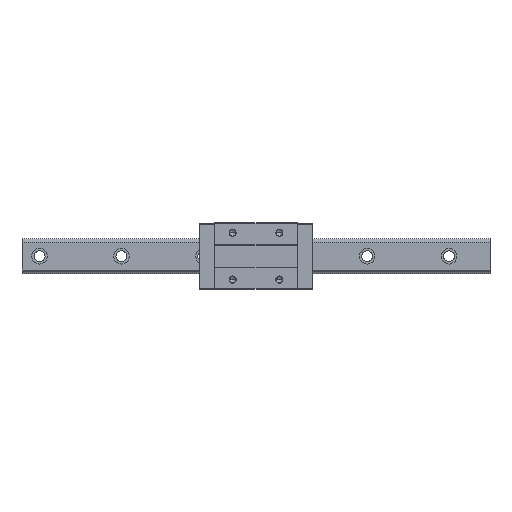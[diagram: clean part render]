
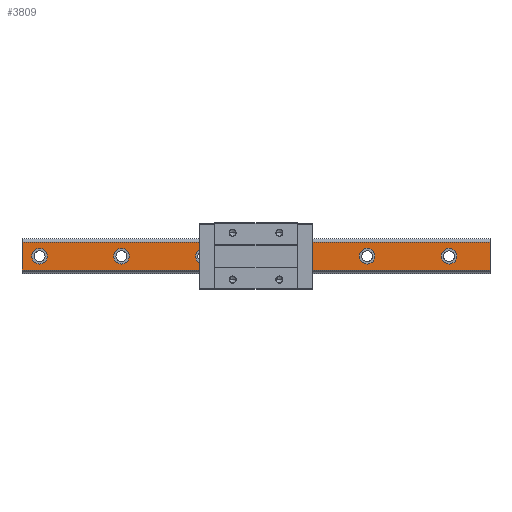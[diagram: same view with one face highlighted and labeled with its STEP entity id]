
A CAD part, top view. The second image highlights one B-rep face of the part: STEP entity #3809.
In plain terms, the highlighted planar face has unit normal (0, 0, 1).
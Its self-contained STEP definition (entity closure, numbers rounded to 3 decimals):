
#32 = VERTEX_POINT ( 'NONE', #368 ) ;
#46 = CARTESIAN_POINT ( 'NONE',  ( 300., -17.696, 32. ) ) ;
#55 = EDGE_LOOP ( 'NONE', ( #2657, #4385 ) ) ;
#112 = FACE_BOUND ( 'NONE', #2966, .T. ) ;
#157 = EDGE_CURVE ( 'NONE', #4929, #4425, #513, .T. ) ;
#167 = CARTESIAN_POINT ( 'NONE',  ( 27.5, 0., 32. ) ) ;
#201 = DIRECTION ( 'NONE',  ( 1., 0., 0. ) ) ;
#218 = CARTESIAN_POINT ( 'NONE',  ( -277.5, 0., 32. ) ) ;
#258 = CIRCLE ( 'NONE', #4062, 10. ) ;
#271 = AXIS2_PLACEMENT_3D ( 'NONE', #3136, #2676, #4907 ) ;
#340 = FACE_BOUND ( 'NONE', #1756, .T. ) ;
#341 = DIRECTION ( 'NONE',  ( 1., 0., 0. ) ) ;
#343 = CARTESIAN_POINT ( 'NONE',  ( -162.5, 0., 32. ) ) ;
#353 = ORIENTED_EDGE ( 'NONE', *, *, #5009, .F. ) ;
#368 = CARTESIAN_POINT ( 'NONE',  ( -300., 17.696, 32. ) ) ;
#393 = DIRECTION ( 'NONE',  ( 0., -1., 0. ) ) ;
#436 = CARTESIAN_POINT ( 'NONE',  ( 132.5, 0., 32. ) ) ;
#439 = VERTEX_POINT ( 'NONE', #167 ) ;
#513 = LINE ( 'NONE', #975, #572 ) ;
#572 = VECTOR ( 'NONE', #4846, 1000. ) ;
#591 = EDGE_CURVE ( 'NONE', #2335, #439, #258, .T. ) ;
#601 = AXIS2_PLACEMENT_3D ( 'NONE', #1574, #5495, #2018 ) ;
#690 = DIRECTION ( 'NONE',  ( 1., 0., 0. ) ) ;
#738 = CIRCLE ( 'NONE', #1017, 10. ) ;
#842 = ORIENTED_EDGE ( 'NONE', *, *, #2032, .F. ) ;
#910 = CARTESIAN_POINT ( 'NONE',  ( 37.5, 0., 32. ) ) ;
#921 = DIRECTION ( 'NONE',  ( 0., -1., 0. ) ) ;
#923 = CIRCLE ( 'NONE', #2274, 10. ) ;
#975 = CARTESIAN_POINT ( 'NONE',  ( 300., -17.696, 32. ) ) ;
#1005 = EDGE_LOOP ( 'NONE', ( #3021, #3750 ) ) ;
#1015 = CARTESIAN_POINT ( 'NONE',  ( -267.5, 0., 32. ) ) ;
#1017 = AXIS2_PLACEMENT_3D ( 'NONE', #1229, #2523, #5185 ) ;
#1170 = CARTESIAN_POINT ( 'NONE',  ( -287.5, 0., 32. ) ) ;
#1202 = AXIS2_PLACEMENT_3D ( 'NONE', #1831, #5278, #690 ) ;
#1229 = CARTESIAN_POINT ( 'NONE',  ( 142.5, 0., 32. ) ) ;
#1260 = PLANE ( 'NONE',  #5082 ) ;
#1320 = DIRECTION ( 'NONE',  ( 0., 0., 1. ) ) ;
#1502 = VECTOR ( 'NONE', #4123, 1000. ) ;
#1509 = CIRCLE ( 'NONE', #1787, 10. ) ;
#1533 = CARTESIAN_POINT ( 'NONE',  ( 247.5, 0., 32. ) ) ;
#1574 = CARTESIAN_POINT ( 'NONE',  ( -172.5, 0., 32. ) ) ;
#1597 = EDGE_LOOP ( 'NONE', ( #2660, #4316 ) ) ;
#1602 = CARTESIAN_POINT ( 'NONE',  ( -277.5, 0., 32. ) ) ;
#1655 = CARTESIAN_POINT ( 'NONE',  ( 247.5, 0., 32. ) ) ;
#1682 = CARTESIAN_POINT ( 'NONE',  ( 300., -17.696, 32. ) ) ;
#1756 = EDGE_LOOP ( 'NONE', ( #3543, #5107 ) ) ;
#1787 = AXIS2_PLACEMENT_3D ( 'NONE', #3327, #4192, #201 ) ;
#1789 = FACE_OUTER_BOUND ( 'NONE', #3745, .T. ) ;
#1831 = CARTESIAN_POINT ( 'NONE',  ( -67.5, 0., 32. ) ) ;
#1908 = VERTEX_POINT ( 'NONE', #343 ) ;
#1927 = EDGE_CURVE ( 'NONE', #3118, #2927, #4443, .T. ) ;
#1942 = ORIENTED_EDGE ( 'NONE', *, *, #2421, .T. ) ;
#2018 = DIRECTION ( 'NONE',  ( 1., 0., 0. ) ) ;
#2032 = EDGE_CURVE ( 'NONE', #4547, #1908, #5432, .T. ) ;
#2067 = FACE_BOUND ( 'NONE', #1005, .T. ) ;
#2072 = DIRECTION ( 'NONE',  ( 1., 0., 0. ) ) ;
#2102 = FACE_BOUND ( 'NONE', #2923, .T. ) ;
#2138 = EDGE_CURVE ( 'NONE', #4649, #5205, #738, .T. ) ;
#2274 = AXIS2_PLACEMENT_3D ( 'NONE', #4918, #4414, #3205 ) ;
#2335 = VERTEX_POINT ( 'NONE', #5045 ) ;
#2400 = CARTESIAN_POINT ( 'NONE',  ( 300., 17.696, 32. ) ) ;
#2410 = CIRCLE ( 'NONE', #601, 10. ) ;
#2421 = EDGE_CURVE ( 'NONE', #32, #4425, #3419, .T. ) ;
#2523 = DIRECTION ( 'NONE',  ( 0., 0., 1. ) ) ;
#2609 = ORIENTED_EDGE ( 'NONE', *, *, #4586, .T. ) ;
#2617 = CARTESIAN_POINT ( 'NONE',  ( -67.5, 0., 32. ) ) ;
#2657 = ORIENTED_EDGE ( 'NONE', *, *, #3151, .F. ) ;
#2660 = ORIENTED_EDGE ( 'NONE', *, *, #3666, .F. ) ;
#2676 = DIRECTION ( 'NONE',  ( 0., 0., 1. ) ) ;
#2689 = AXIS2_PLACEMENT_3D ( 'NONE', #1602, #3335, #341 ) ;
#2797 = EDGE_CURVE ( 'NONE', #4836, #5369, #4890, .T. ) ;
#2811 = DIRECTION ( 'NONE',  ( 0., 0., 1. ) ) ;
#2825 = CARTESIAN_POINT ( 'NONE',  ( -300., -17.696, 32. ) ) ;
#2910 = AXIS2_PLACEMENT_3D ( 'NONE', #218, #3657, #5371 ) ;
#2911 = AXIS2_PLACEMENT_3D ( 'NONE', #2617, #1320, #2072 ) ;
#2923 = EDGE_LOOP ( 'NONE', ( #3006, #353 ) ) ;
#2927 = VERTEX_POINT ( 'NONE', #5427 ) ;
#2966 = EDGE_LOOP ( 'NONE', ( #5422, #842 ) ) ;
#3006 = ORIENTED_EDGE ( 'NONE', *, *, #2797, .F. ) ;
#3021 = ORIENTED_EDGE ( 'NONE', *, *, #3838, .F. ) ;
#3084 = VECTOR ( 'NONE', #921, 1000. ) ;
#3111 = EDGE_CURVE ( 'NONE', #4641, #4929, #5176, .T. ) ;
#3118 = VERTEX_POINT ( 'NONE', #3518 ) ;
#3136 = CARTESIAN_POINT ( 'NONE',  ( -172.5, 0., 32. ) ) ;
#3151 = EDGE_CURVE ( 'NONE', #5205, #4649, #923, .T. ) ;
#3195 = CIRCLE ( 'NONE', #1202, 10. ) ;
#3205 = DIRECTION ( 'NONE',  ( 1., 0., 0. ) ) ;
#3327 = CARTESIAN_POINT ( 'NONE',  ( 37.5, 0., 32. ) ) ;
#3335 = DIRECTION ( 'NONE',  ( 0., 0., 1. ) ) ;
#3419 = LINE ( 'NONE', #4767, #3084 ) ;
#3518 = CARTESIAN_POINT ( 'NONE',  ( -77.5, 0., 32. ) ) ;
#3543 = ORIENTED_EDGE ( 'NONE', *, *, #591, .F. ) ;
#3555 = CARTESIAN_POINT ( 'NONE',  ( 237.5, 0., 32. ) ) ;
#3581 = DIRECTION ( 'NONE',  ( 0., 0., 1. ) ) ;
#3616 = ORIENTED_EDGE ( 'NONE', *, *, #3111, .F. ) ;
#3657 = DIRECTION ( 'NONE',  ( 0., 0., 1. ) ) ;
#3666 = EDGE_CURVE ( 'NONE', #2927, #3118, #3195, .T. ) ;
#3721 = VECTOR ( 'NONE', #393, 1000. ) ;
#3745 = EDGE_LOOP ( 'NONE', ( #1942, #4124, #3616, #2609 ) ) ;
#3750 = ORIENTED_EDGE ( 'NONE', *, *, #5377, .F. ) ;
#3760 = LINE ( 'NONE', #2400, #1502 ) ;
#3785 = VERTEX_POINT ( 'NONE', #3555 ) ;
#3807 = DIRECTION ( 'NONE',  ( 0., 0., -1. ) ) ;
#3809 = ADVANCED_FACE ( 'NONE', ( #2102, #112, #5104, #340, #3835, #2067, #1789 ), #1260, .F. ) ;
#3826 = AXIS2_PLACEMENT_3D ( 'NONE', #1655, #5268, #4652 ) ;
#3835 = FACE_BOUND ( 'NONE', #55, .T. ) ;
#3838 = EDGE_CURVE ( 'NONE', #4355, #3785, #5353, .T. ) ;
#3866 = CIRCLE ( 'NONE', #4675, 10. ) ;
#4062 = AXIS2_PLACEMENT_3D ( 'NONE', #910, #3581, #5232 ) ;
#4117 = CARTESIAN_POINT ( 'NONE',  ( 300., -17.696, 32. ) ) ;
#4123 = DIRECTION ( 'NONE',  ( -1., 0., 0. ) ) ;
#4124 = ORIENTED_EDGE ( 'NONE', *, *, #157, .F. ) ;
#4147 = CARTESIAN_POINT ( 'NONE',  ( -182.5, 0., 32. ) ) ;
#4192 = DIRECTION ( 'NONE',  ( 0., 0., 1. ) ) ;
#4316 = ORIENTED_EDGE ( 'NONE', *, *, #1927, .F. ) ;
#4355 = VERTEX_POINT ( 'NONE', #4865 ) ;
#4385 = ORIENTED_EDGE ( 'NONE', *, *, #2138, .F. ) ;
#4399 = CARTESIAN_POINT ( 'NONE',  ( 152.5, 0., 32. ) ) ;
#4414 = DIRECTION ( 'NONE',  ( 0., 0., 1. ) ) ;
#4425 = VERTEX_POINT ( 'NONE', #2825 ) ;
#4443 = CIRCLE ( 'NONE', #2911, 10. ) ;
#4547 = VERTEX_POINT ( 'NONE', #4147 ) ;
#4586 = EDGE_CURVE ( 'NONE', #4641, #32, #3760, .T. ) ;
#4620 = DIRECTION ( 'NONE',  ( 1., 0., 0. ) ) ;
#4641 = VERTEX_POINT ( 'NONE', #5134 ) ;
#4649 = VERTEX_POINT ( 'NONE', #436 ) ;
#4652 = DIRECTION ( 'NONE',  ( 1., 0., 0. ) ) ;
#4672 = CIRCLE ( 'NONE', #2689, 10. ) ;
#4675 = AXIS2_PLACEMENT_3D ( 'NONE', #1533, #2811, #4620 ) ;
#4767 = CARTESIAN_POINT ( 'NONE',  ( -300., -17.696, 32. ) ) ;
#4836 = VERTEX_POINT ( 'NONE', #1015 ) ;
#4846 = DIRECTION ( 'NONE',  ( -1., 0., 0. ) ) ;
#4865 = CARTESIAN_POINT ( 'NONE',  ( 257.5, 0., 32. ) ) ;
#4890 = CIRCLE ( 'NONE', #2910, 10. ) ;
#4907 = DIRECTION ( 'NONE',  ( 1., 0., 0. ) ) ;
#4918 = CARTESIAN_POINT ( 'NONE',  ( 142.5, 0., 32. ) ) ;
#4929 = VERTEX_POINT ( 'NONE', #4117 ) ;
#4959 = EDGE_CURVE ( 'NONE', #1908, #4547, #2410, .T. ) ;
#5009 = EDGE_CURVE ( 'NONE', #5369, #4836, #4672, .T. ) ;
#5045 = CARTESIAN_POINT ( 'NONE',  ( 47.5, 0., 32. ) ) ;
#5082 = AXIS2_PLACEMENT_3D ( 'NONE', #1682, #3807, #5527 ) ;
#5104 = FACE_BOUND ( 'NONE', #1597, .T. ) ;
#5107 = ORIENTED_EDGE ( 'NONE', *, *, #5354, .F. ) ;
#5134 = CARTESIAN_POINT ( 'NONE',  ( 300., 17.696, 32. ) ) ;
#5176 = LINE ( 'NONE', #46, #3721 ) ;
#5185 = DIRECTION ( 'NONE',  ( 1., 0., 0. ) ) ;
#5205 = VERTEX_POINT ( 'NONE', #4399 ) ;
#5232 = DIRECTION ( 'NONE',  ( 1., 0., 0. ) ) ;
#5268 = DIRECTION ( 'NONE',  ( 0., 0., 1. ) ) ;
#5278 = DIRECTION ( 'NONE',  ( 0., 0., 1. ) ) ;
#5353 = CIRCLE ( 'NONE', #3826, 10. ) ;
#5354 = EDGE_CURVE ( 'NONE', #439, #2335, #1509, .T. ) ;
#5369 = VERTEX_POINT ( 'NONE', #1170 ) ;
#5371 = DIRECTION ( 'NONE',  ( 1., 0., 0. ) ) ;
#5377 = EDGE_CURVE ( 'NONE', #3785, #4355, #3866, .T. ) ;
#5422 = ORIENTED_EDGE ( 'NONE', *, *, #4959, .F. ) ;
#5427 = CARTESIAN_POINT ( 'NONE',  ( -57.5, 0., 32. ) ) ;
#5432 = CIRCLE ( 'NONE', #271, 10. ) ;
#5495 = DIRECTION ( 'NONE',  ( 0., 0., 1. ) ) ;
#5527 = DIRECTION ( 'NONE',  ( -1., 0., 0. ) ) ;
